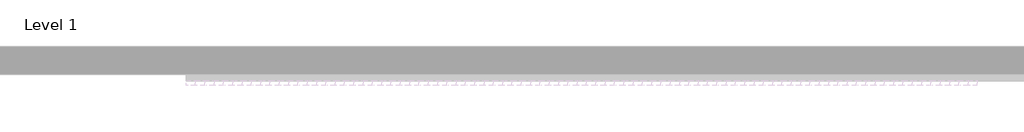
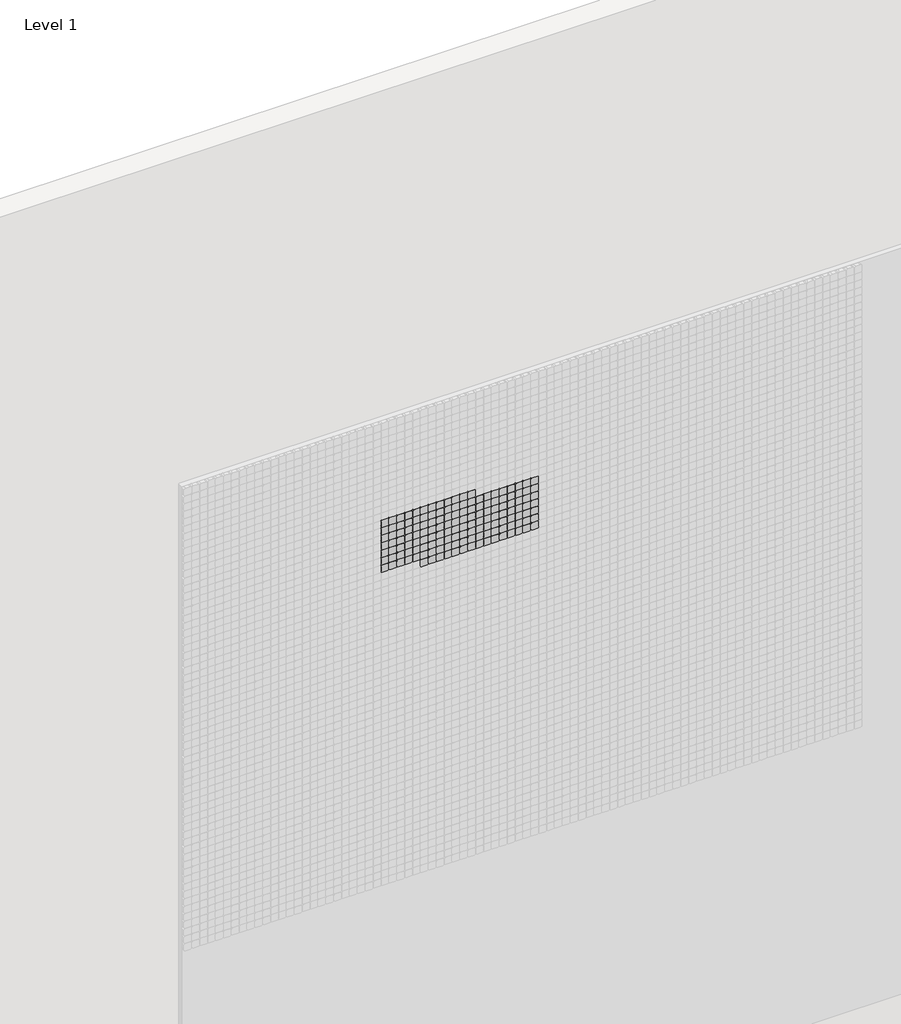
# One storey, part 23 of 71: 147 proxies.
"""IFC4 building model written with IfcOpenShell, lengths in millimetres."""

from ifc_helpers import new_model, si_unit, origin, place, context, project, spatial, transform, mapped, element, save
from components import generic_models_afde289c

model = new_model("IFC4")

# Units and contexts
model_context = context("Model", 3, world=origin())
ifc_project = project(units=[si_unit("LENGTHUNIT", "METRE", prefix="MILLI")], contexts=[model_context])

# Site, building, storey
site = spatial("IfcSite", under=ifc_project)
building = spatial("IfcBuilding", under=site)
storey = spatial("IfcBuildingStorey", under=building, Name="Level 1", Elevation=0.0)

# Proxies
placement = place(None, origin())
generic_models_shape = generic_models_afde289c(model_context)
element("IfcBuildingElementProxy", 1, Name="Pixel_M : Pixel_M", ObjectType="Pixel_M : Pixel_M", at=placement, inside=storey, context=model_context, shape_type="MappedRepresentation", body=[
    mapped(generic_models_shape, transform((6562.4280941, -75.0, 5316.3566215), x_axis=(1.0, 0.0, 0.0), y_axis=(0.0, 0.0, 1.0), z_axis=(0.0, -1.0, 0.0))),
])
element("IfcBuildingElementProxy", 2, Name="Pixel_M : Pixel_M", ObjectType="Pixel_M : Pixel_M", at=placement, inside=storey, context=model_context, shape_type="MappedRepresentation", body=[
    mapped(generic_models_shape, transform((6512.4280941, -75.0, 5316.3566215), x_axis=(1.0, 0.0, 0.0), y_axis=(0.0, 0.0, 1.0), z_axis=(0.0, -1.0, 0.0))),
])
element("IfcBuildingElementProxy", 3, Name="Pixel_M : Pixel_M", ObjectType="Pixel_M : Pixel_M", at=placement, inside=storey, context=model_context, shape_type="MappedRepresentation", body=[
    mapped(generic_models_shape, transform((6462.4280941, -75.0, 5316.3566215), x_axis=(1.0, 0.0, 0.0), y_axis=(0.0, 0.0, 1.0), z_axis=(0.0, -1.0, 0.0))),
])
element("IfcBuildingElementProxy", 4, Name="Pixel_M : Pixel_M", ObjectType="Pixel_M : Pixel_M", at=placement, inside=storey, context=model_context, shape_type="MappedRepresentation", body=[
    mapped(generic_models_shape, transform((6412.4280941, -75.0, 5316.3566215), x_axis=(1.0, 0.0, 0.0), y_axis=(0.0, 0.0, 1.0), z_axis=(0.0, -1.0, 0.0))),
])
element("IfcBuildingElementProxy", 5, Name="Pixel_M : Pixel_M", ObjectType="Pixel_M : Pixel_M", at=placement, inside=storey, context=model_context, shape_type="MappedRepresentation", body=[
    mapped(generic_models_shape, transform((6362.4280941, -75.0, 5316.3566215), x_axis=(1.0, 0.0, 0.0), y_axis=(0.0, 0.0, 1.0), z_axis=(0.0, -1.0, 0.0))),
])
element("IfcBuildingElementProxy", 6, Name="Pixel_M : Pixel_M", ObjectType="Pixel_M : Pixel_M", at=placement, inside=storey, context=model_context, shape_type="MappedRepresentation", body=[
    mapped(generic_models_shape, transform((6312.4280941, -75.0, 5316.3566215), x_axis=(1.0, 0.0, 0.0), y_axis=(0.0, 0.0, 1.0), z_axis=(0.0, -1.0, 0.0))),
])
element("IfcBuildingElementProxy", 7, Name="Pixel_M : Pixel_M", ObjectType="Pixel_M : Pixel_M", at=placement, inside=storey, context=model_context, shape_type="MappedRepresentation", body=[
    mapped(generic_models_shape, transform((6262.4280941, -75.0, 5316.3566215), x_axis=(1.0, 0.0, 0.0), y_axis=(0.0, 0.0, 1.0), z_axis=(0.0, -1.0, 0.0))),
])
element("IfcBuildingElementProxy", 8, Name="Pixel_M : Pixel_M", ObjectType="Pixel_M : Pixel_M", at=placement, inside=storey, context=model_context, shape_type="MappedRepresentation", body=[
    mapped(generic_models_shape, transform((6212.4280941, -75.0, 5316.3566215), x_axis=(1.0, 0.0, 0.0), y_axis=(0.0, 0.0, 1.0), z_axis=(0.0, -1.0, 0.0))),
])
element("IfcBuildingElementProxy", 9, Name="Pixel_M : Pixel_M", ObjectType="Pixel_M : Pixel_M", at=placement, inside=storey, context=model_context, shape_type="MappedRepresentation", body=[
    mapped(generic_models_shape, transform((6162.4280941, -75.0, 5316.3566215), x_axis=(1.0, 0.0, 0.0), y_axis=(0.0, 0.0, 1.0), z_axis=(0.0, -1.0, 0.0))),
])
element("IfcBuildingElementProxy", 10, Name="Pixel_M : Pixel_M", ObjectType="Pixel_M : Pixel_M", at=placement, inside=storey, context=model_context, shape_type="MappedRepresentation", body=[
    mapped(generic_models_shape, transform((6112.4280941, -75.0, 5316.3566215), x_axis=(1.0, 0.0, 0.0), y_axis=(0.0, 0.0, 1.0), z_axis=(0.0, -1.0, 0.0))),
])
element("IfcBuildingElementProxy", 11, Name="Pixel_M : Pixel_M", ObjectType="Pixel_M : Pixel_M", at=placement, inside=storey, context=model_context, shape_type="MappedRepresentation", body=[
    mapped(generic_models_shape, transform((6062.4280941, -75.0, 5316.3566215), x_axis=(1.0, 0.0, 0.0), y_axis=(0.0, 0.0, 1.0), z_axis=(0.0, -1.0, 0.0))),
])
element("IfcBuildingElementProxy", 12, Name="Pixel_M : Pixel_M", ObjectType="Pixel_M : Pixel_M", at=placement, inside=storey, context=model_context, shape_type="MappedRepresentation", body=[
    mapped(generic_models_shape, transform((6012.4280941, -75.0, 5316.3566215), x_axis=(1.0, 0.0, 0.0), y_axis=(0.0, 0.0, 1.0), z_axis=(0.0, -1.0, 0.0))),
])
element("IfcBuildingElementProxy", 13, Name="Pixel_M : Pixel_M", ObjectType="Pixel_M : Pixel_M", at=placement, inside=storey, context=model_context, shape_type="MappedRepresentation", body=[
    mapped(generic_models_shape, transform((6962.4280941, -75.0, 5266.3566215), x_axis=(1.0, 0.0, 0.0), y_axis=(0.0, 0.0, 1.0), z_axis=(0.0, -1.0, 0.0))),
])
element("IfcBuildingElementProxy", 14, Name="Pixel_M : Pixel_M", ObjectType="Pixel_M : Pixel_M", at=placement, inside=storey, context=model_context, shape_type="MappedRepresentation", body=[
    mapped(generic_models_shape, transform((6912.4280941, -75.0, 5266.3566215), x_axis=(1.0, 0.0, 0.0), y_axis=(0.0, 0.0, 1.0), z_axis=(0.0, -1.0, 0.0))),
])
element("IfcBuildingElementProxy", 15, Name="Pixel_M : Pixel_M", ObjectType="Pixel_M : Pixel_M", at=placement, inside=storey, context=model_context, shape_type="MappedRepresentation", body=[
    mapped(generic_models_shape, transform((6862.4280941, -75.0, 5266.3566215), x_axis=(1.0, 0.0, 0.0), y_axis=(0.0, 0.0, 1.0), z_axis=(0.0, -1.0, 0.0))),
])
element("IfcBuildingElementProxy", 16, Name="Pixel_M : Pixel_M", ObjectType="Pixel_M : Pixel_M", at=placement, inside=storey, context=model_context, shape_type="MappedRepresentation", body=[
    mapped(generic_models_shape, transform((6812.4280941, -75.0, 5266.3566215), x_axis=(1.0, 0.0, 0.0), y_axis=(0.0, 0.0, 1.0), z_axis=(0.0, -1.0, 0.0))),
])
element("IfcBuildingElementProxy", 17, Name="Pixel_M : Pixel_M", ObjectType="Pixel_M : Pixel_M", at=placement, inside=storey, context=model_context, shape_type="MappedRepresentation", body=[
    mapped(generic_models_shape, transform((6762.4280941, -75.0, 5266.3566215), x_axis=(1.0, 0.0, 0.0), y_axis=(0.0, 0.0, 1.0), z_axis=(0.0, -1.0, 0.0))),
])
element("IfcBuildingElementProxy", 18, Name="Pixel_M : Pixel_M", ObjectType="Pixel_M : Pixel_M", at=placement, inside=storey, context=model_context, shape_type="MappedRepresentation", body=[
    mapped(generic_models_shape, transform((6712.4280941, -75.0, 5266.3566215), x_axis=(1.0, 0.0, 0.0), y_axis=(0.0, 0.0, 1.0), z_axis=(0.0, -1.0, 0.0))),
])
element("IfcBuildingElementProxy", 19, Name="Pixel_M : Pixel_M", ObjectType="Pixel_M : Pixel_M", at=placement, inside=storey, context=model_context, shape_type="MappedRepresentation", body=[
    mapped(generic_models_shape, transform((6662.4280941, -75.0, 5266.3566215), x_axis=(1.0, 0.0, 0.0), y_axis=(0.0, 0.0, 1.0), z_axis=(0.0, -1.0, 0.0))),
])
element("IfcBuildingElementProxy", 20, Name="Pixel_M : Pixel_M", ObjectType="Pixel_M : Pixel_M", at=placement, inside=storey, context=model_context, shape_type="MappedRepresentation", body=[
    mapped(generic_models_shape, transform((6612.4280941, -75.0, 5266.3566215), x_axis=(1.0, 0.0, 0.0), y_axis=(0.0, 0.0, 1.0), z_axis=(0.0, -1.0, 0.0))),
])
element("IfcBuildingElementProxy", 21, Name="Pixel_M : Pixel_M", ObjectType="Pixel_M : Pixel_M", at=placement, inside=storey, context=model_context, shape_type="MappedRepresentation", body=[
    mapped(generic_models_shape, transform((6562.4280941, -75.0, 5266.3566215), x_axis=(1.0, 0.0, 0.0), y_axis=(0.0, 0.0, 1.0), z_axis=(0.0, -1.0, 0.0))),
])
element("IfcBuildingElementProxy", 22, Name="Pixel_M : Pixel_M", ObjectType="Pixel_M : Pixel_M", at=placement, inside=storey, context=model_context, shape_type="MappedRepresentation", body=[
    mapped(generic_models_shape, transform((6512.4280941, -75.0, 5266.3566215), x_axis=(1.0, 0.0, 0.0), y_axis=(0.0, 0.0, 1.0), z_axis=(0.0, -1.0, 0.0))),
])
element("IfcBuildingElementProxy", 23, Name="Pixel_M : Pixel_M", ObjectType="Pixel_M : Pixel_M", at=placement, inside=storey, context=model_context, shape_type="MappedRepresentation", body=[
    mapped(generic_models_shape, transform((6462.4280941, -75.0, 5266.3566215), x_axis=(1.0, 0.0, 0.0), y_axis=(0.0, 0.0, 1.0), z_axis=(0.0, -1.0, 0.0))),
])
element("IfcBuildingElementProxy", 24, Name="Pixel_M : Pixel_M", ObjectType="Pixel_M : Pixel_M", at=placement, inside=storey, context=model_context, shape_type="MappedRepresentation", body=[
    mapped(generic_models_shape, transform((6412.4280941, -75.0, 5266.3566215), x_axis=(1.0, 0.0, 0.0), y_axis=(0.0, 0.0, 1.0), z_axis=(0.0, -1.0, 0.0))),
])
element("IfcBuildingElementProxy", 25, Name="Pixel_M : Pixel_M", ObjectType="Pixel_M : Pixel_M", at=placement, inside=storey, context=model_context, shape_type="MappedRepresentation", body=[
    mapped(generic_models_shape, transform((6362.4280941, -75.0, 5266.3566215), x_axis=(1.0, 0.0, 0.0), y_axis=(0.0, 0.0, 1.0), z_axis=(0.0, -1.0, 0.0))),
])
element("IfcBuildingElementProxy", 26, Name="Pixel_M : Pixel_M", ObjectType="Pixel_M : Pixel_M", at=placement, inside=storey, context=model_context, shape_type="MappedRepresentation", body=[
    mapped(generic_models_shape, transform((6312.4280941, -75.0, 5266.3566215), x_axis=(1.0, 0.0, 0.0), y_axis=(0.0, 0.0, 1.0), z_axis=(0.0, -1.0, 0.0))),
])
element("IfcBuildingElementProxy", 27, Name="Pixel_M : Pixel_M", ObjectType="Pixel_M : Pixel_M", at=placement, inside=storey, context=model_context, shape_type="MappedRepresentation", body=[
    mapped(generic_models_shape, transform((6262.4280941, -75.0, 5266.3566215), x_axis=(1.0, 0.0, 0.0), y_axis=(0.0, 0.0, 1.0), z_axis=(0.0, -1.0, 0.0))),
])
element("IfcBuildingElementProxy", 28, Name="Pixel_M : Pixel_M", ObjectType="Pixel_M : Pixel_M", at=placement, inside=storey, context=model_context, shape_type="MappedRepresentation", body=[
    mapped(generic_models_shape, transform((6212.4280941, -75.0, 5266.3566215), x_axis=(1.0, 0.0, 0.0), y_axis=(0.0, 0.0, 1.0), z_axis=(0.0, -1.0, 0.0))),
])
element("IfcBuildingElementProxy", 29, Name="Pixel_M : Pixel_M", ObjectType="Pixel_M : Pixel_M", at=placement, inside=storey, context=model_context, shape_type="MappedRepresentation", body=[
    mapped(generic_models_shape, transform((6162.4280941, -75.0, 5266.3566215), x_axis=(1.0, 0.0, 0.0), y_axis=(0.0, 0.0, 1.0), z_axis=(0.0, -1.0, 0.0))),
])
element("IfcBuildingElementProxy", 30, Name="Pixel_M : Pixel_M", ObjectType="Pixel_M : Pixel_M", at=placement, inside=storey, context=model_context, shape_type="MappedRepresentation", body=[
    mapped(generic_models_shape, transform((6112.4280941, -75.0, 5266.3566215), x_axis=(1.0, 0.0, 0.0), y_axis=(0.0, 0.0, 1.0), z_axis=(0.0, -1.0, 0.0))),
])
element("IfcBuildingElementProxy", 31, Name="Pixel_M : Pixel_M", ObjectType="Pixel_M : Pixel_M", at=placement, inside=storey, context=model_context, shape_type="MappedRepresentation", body=[
    mapped(generic_models_shape, transform((6062.4280941, -75.0, 5266.3566215), x_axis=(1.0, 0.0, 0.0), y_axis=(0.0, 0.0, 1.0), z_axis=(0.0, -1.0, 0.0))),
])
element("IfcBuildingElementProxy", 32, Name="Pixel_M : Pixel_M", ObjectType="Pixel_M : Pixel_M", at=placement, inside=storey, context=model_context, shape_type="MappedRepresentation", body=[
    mapped(generic_models_shape, transform((6012.4280941, -75.0, 5266.3566215), x_axis=(1.0, 0.0, 0.0), y_axis=(0.0, 0.0, 1.0), z_axis=(0.0, -1.0, 0.0))),
])
element("IfcBuildingElementProxy", 33, Name="Pixel_M : Pixel_M", ObjectType="Pixel_M : Pixel_M", at=placement, inside=storey, context=model_context, shape_type="MappedRepresentation", body=[
    mapped(generic_models_shape, transform((6962.4280941, -75.0, 5216.3566215), x_axis=(1.0, 0.0, 0.0), y_axis=(0.0, 0.0, 1.0), z_axis=(0.0, -1.0, 0.0))),
])
element("IfcBuildingElementProxy", 34, Name="Pixel_M : Pixel_M", ObjectType="Pixel_M : Pixel_M", at=placement, inside=storey, context=model_context, shape_type="MappedRepresentation", body=[
    mapped(generic_models_shape, transform((6912.4280941, -75.0, 5216.3566215), x_axis=(1.0, 0.0, 0.0), y_axis=(0.0, 0.0, 1.0), z_axis=(0.0, -1.0, 0.0))),
])
element("IfcBuildingElementProxy", 35, Name="Pixel_M : Pixel_M", ObjectType="Pixel_M : Pixel_M", at=placement, inside=storey, context=model_context, shape_type="MappedRepresentation", body=[
    mapped(generic_models_shape, transform((6862.4280941, -75.0, 5216.3566215), x_axis=(1.0, 0.0, 0.0), y_axis=(0.0, 0.0, 1.0), z_axis=(0.0, -1.0, 0.0))),
])
element("IfcBuildingElementProxy", 36, Name="Pixel_M : Pixel_M", ObjectType="Pixel_M : Pixel_M", at=placement, inside=storey, context=model_context, shape_type="MappedRepresentation", body=[
    mapped(generic_models_shape, transform((6812.4280941, -75.0, 5216.3566215), x_axis=(1.0, 0.0, 0.0), y_axis=(0.0, 0.0, 1.0), z_axis=(0.0, -1.0, 0.0))),
])
element("IfcBuildingElementProxy", 37, Name="Pixel_M : Pixel_M", ObjectType="Pixel_M : Pixel_M", at=placement, inside=storey, context=model_context, shape_type="MappedRepresentation", body=[
    mapped(generic_models_shape, transform((6762.4280941, -75.0, 5216.3566215), x_axis=(1.0, 0.0, 0.0), y_axis=(0.0, 0.0, 1.0), z_axis=(0.0, -1.0, 0.0))),
])
element("IfcBuildingElementProxy", 38, Name="Pixel_M : Pixel_M", ObjectType="Pixel_M : Pixel_M", at=placement, inside=storey, context=model_context, shape_type="MappedRepresentation", body=[
    mapped(generic_models_shape, transform((6712.4280941, -75.0, 5216.3566215), x_axis=(1.0, 0.0, 0.0), y_axis=(0.0, 0.0, 1.0), z_axis=(0.0, -1.0, 0.0))),
])
element("IfcBuildingElementProxy", 39, Name="Pixel_M : Pixel_M", ObjectType="Pixel_M : Pixel_M", at=placement, inside=storey, context=model_context, shape_type="MappedRepresentation", body=[
    mapped(generic_models_shape, transform((6662.4280941, -75.0, 5216.3566215), x_axis=(1.0, 0.0, 0.0), y_axis=(0.0, 0.0, 1.0), z_axis=(0.0, -1.0, 0.0))),
])
element("IfcBuildingElementProxy", 40, Name="Pixel_M : Pixel_M", ObjectType="Pixel_M : Pixel_M", at=placement, inside=storey, context=model_context, shape_type="MappedRepresentation", body=[
    mapped(generic_models_shape, transform((6612.4280941, -75.0, 5216.3566215), x_axis=(1.0, 0.0, 0.0), y_axis=(0.0, 0.0, 1.0), z_axis=(0.0, -1.0, 0.0))),
])
element("IfcBuildingElementProxy", 41, Name="Pixel_M : Pixel_M", ObjectType="Pixel_M : Pixel_M", at=placement, inside=storey, context=model_context, shape_type="MappedRepresentation", body=[
    mapped(generic_models_shape, transform((6562.4280941, -75.0, 5216.3566215), x_axis=(1.0, 0.0, 0.0), y_axis=(0.0, 0.0, 1.0), z_axis=(0.0, -1.0, 0.0))),
])
element("IfcBuildingElementProxy", 42, Name="Pixel_M : Pixel_M", ObjectType="Pixel_M : Pixel_M", at=placement, inside=storey, context=model_context, shape_type="MappedRepresentation", body=[
    mapped(generic_models_shape, transform((6512.4280941, -75.0, 5216.3566215), x_axis=(1.0, 0.0, 0.0), y_axis=(0.0, 0.0, 1.0), z_axis=(0.0, -1.0, 0.0))),
])
element("IfcBuildingElementProxy", 43, Name="Pixel_M : Pixel_M", ObjectType="Pixel_M : Pixel_M", at=placement, inside=storey, context=model_context, shape_type="MappedRepresentation", body=[
    mapped(generic_models_shape, transform((6462.4280941, -75.0, 5216.3566215), x_axis=(1.0, 0.0, 0.0), y_axis=(0.0, 0.0, 1.0), z_axis=(0.0, -1.0, 0.0))),
])
element("IfcBuildingElementProxy", 44, Name="Pixel_M : Pixel_M", ObjectType="Pixel_M : Pixel_M", at=placement, inside=storey, context=model_context, shape_type="MappedRepresentation", body=[
    mapped(generic_models_shape, transform((6412.4280941, -75.0, 5216.3566215), x_axis=(1.0, 0.0, 0.0), y_axis=(0.0, 0.0, 1.0), z_axis=(0.0, -1.0, 0.0))),
])
element("IfcBuildingElementProxy", 45, Name="Pixel_M : Pixel_M", ObjectType="Pixel_M : Pixel_M", at=placement, inside=storey, context=model_context, shape_type="MappedRepresentation", body=[
    mapped(generic_models_shape, transform((6362.4280941, -75.0, 5216.3566215), x_axis=(1.0, 0.0, 0.0), y_axis=(0.0, 0.0, 1.0), z_axis=(0.0, -1.0, 0.0))),
])
element("IfcBuildingElementProxy", 46, Name="Pixel_M : Pixel_M", ObjectType="Pixel_M : Pixel_M", at=placement, inside=storey, context=model_context, shape_type="MappedRepresentation", body=[
    mapped(generic_models_shape, transform((6312.4280941, -75.0, 5216.3566215), x_axis=(1.0, 0.0, 0.0), y_axis=(0.0, 0.0, 1.0), z_axis=(0.0, -1.0, 0.0))),
])
element("IfcBuildingElementProxy", 47, Name="Pixel_M : Pixel_M", ObjectType="Pixel_M : Pixel_M", at=placement, inside=storey, context=model_context, shape_type="MappedRepresentation", body=[
    mapped(generic_models_shape, transform((6262.4280941, -75.0, 5216.3566215), x_axis=(1.0, 0.0, 0.0), y_axis=(0.0, 0.0, 1.0), z_axis=(0.0, -1.0, 0.0))),
])
element("IfcBuildingElementProxy", 48, Name="Pixel_M : Pixel_M", ObjectType="Pixel_M : Pixel_M", at=placement, inside=storey, context=model_context, shape_type="MappedRepresentation", body=[
    mapped(generic_models_shape, transform((6212.4280941, -75.0, 5216.3566215), x_axis=(1.0, 0.0, 0.0), y_axis=(0.0, 0.0, 1.0), z_axis=(0.0, -1.0, 0.0))),
])
element("IfcBuildingElementProxy", 49, Name="Pixel_M : Pixel_M", ObjectType="Pixel_M : Pixel_M", at=placement, inside=storey, context=model_context, shape_type="MappedRepresentation", body=[
    mapped(generic_models_shape, transform((6162.4280941, -75.0, 5216.3566215), x_axis=(1.0, 0.0, 0.0), y_axis=(0.0, 0.0, 1.0), z_axis=(0.0, -1.0, 0.0))),
])
element("IfcBuildingElementProxy", 50, Name="Pixel_M : Pixel_M", ObjectType="Pixel_M : Pixel_M", at=placement, inside=storey, context=model_context, shape_type="MappedRepresentation", body=[
    mapped(generic_models_shape, transform((6112.4280941, -75.0, 5216.3566215), x_axis=(1.0, 0.0, 0.0), y_axis=(0.0, 0.0, 1.0), z_axis=(0.0, -1.0, 0.0))),
])
element("IfcBuildingElementProxy", 51, Name="Pixel_M : Pixel_M", ObjectType="Pixel_M : Pixel_M", at=placement, inside=storey, context=model_context, shape_type="MappedRepresentation", body=[
    mapped(generic_models_shape, transform((6062.4280941, -75.0, 5216.3566215), x_axis=(1.0, 0.0, 0.0), y_axis=(0.0, 0.0, 1.0), z_axis=(0.0, -1.0, 0.0))),
])
element("IfcBuildingElementProxy", 52, Name="Pixel_M : Pixel_M", ObjectType="Pixel_M : Pixel_M", at=placement, inside=storey, context=model_context, shape_type="MappedRepresentation", body=[
    mapped(generic_models_shape, transform((6012.4280941, -75.0, 5216.3566215), x_axis=(1.0, 0.0, 0.0), y_axis=(0.0, 0.0, 1.0), z_axis=(0.0, -1.0, 0.0))),
])
element("IfcBuildingElementProxy", 53, Name="Pixel_M : Pixel_M", ObjectType="Pixel_M : Pixel_M", at=placement, inside=storey, context=model_context, shape_type="MappedRepresentation", body=[
    mapped(generic_models_shape, transform((6962.4280941, -75.0, 5166.3566215), x_axis=(1.0, 0.0, 0.0), y_axis=(0.0, 0.0, 1.0), z_axis=(0.0, -1.0, 0.0))),
])
element("IfcBuildingElementProxy", 54, Name="Pixel_M : Pixel_M", ObjectType="Pixel_M : Pixel_M", at=placement, inside=storey, context=model_context, shape_type="MappedRepresentation", body=[
    mapped(generic_models_shape, transform((6912.4280941, -75.0, 5166.3566215), x_axis=(1.0, 0.0, 0.0), y_axis=(0.0, 0.0, 1.0), z_axis=(0.0, -1.0, 0.0))),
])
element("IfcBuildingElementProxy", 55, Name="Pixel_M : Pixel_M", ObjectType="Pixel_M : Pixel_M", at=placement, inside=storey, context=model_context, shape_type="MappedRepresentation", body=[
    mapped(generic_models_shape, transform((6862.4280941, -75.0, 5166.3566215), x_axis=(1.0, 0.0, 0.0), y_axis=(0.0, 0.0, 1.0), z_axis=(0.0, -1.0, 0.0))),
])
element("IfcBuildingElementProxy", 56, Name="Pixel_M : Pixel_M", ObjectType="Pixel_M : Pixel_M", at=placement, inside=storey, context=model_context, shape_type="MappedRepresentation", body=[
    mapped(generic_models_shape, transform((6812.4280941, -75.0, 5166.3566215), x_axis=(1.0, 0.0, 0.0), y_axis=(0.0, 0.0, 1.0), z_axis=(0.0, -1.0, 0.0))),
])
element("IfcBuildingElementProxy", 57, Name="Pixel_M : Pixel_M", ObjectType="Pixel_M : Pixel_M", at=placement, inside=storey, context=model_context, shape_type="MappedRepresentation", body=[
    mapped(generic_models_shape, transform((6762.4280941, -75.0, 5166.3566215), x_axis=(1.0, 0.0, 0.0), y_axis=(0.0, 0.0, 1.0), z_axis=(0.0, -1.0, 0.0))),
])
element("IfcBuildingElementProxy", 58, Name="Pixel_M : Pixel_M", ObjectType="Pixel_M : Pixel_M", at=placement, inside=storey, context=model_context, shape_type="MappedRepresentation", body=[
    mapped(generic_models_shape, transform((6712.4280941, -75.0, 5166.3566215), x_axis=(1.0, 0.0, 0.0), y_axis=(0.0, 0.0, 1.0), z_axis=(0.0, -1.0, 0.0))),
])
element("IfcBuildingElementProxy", 59, Name="Pixel_M : Pixel_M", ObjectType="Pixel_M : Pixel_M", at=placement, inside=storey, context=model_context, shape_type="MappedRepresentation", body=[
    mapped(generic_models_shape, transform((6662.4280941, -75.0, 5166.3566215), x_axis=(1.0, 0.0, 0.0), y_axis=(0.0, 0.0, 1.0), z_axis=(0.0, -1.0, 0.0))),
])
element("IfcBuildingElementProxy", 60, Name="Pixel_M : Pixel_M", ObjectType="Pixel_M : Pixel_M", at=placement, inside=storey, context=model_context, shape_type="MappedRepresentation", body=[
    mapped(generic_models_shape, transform((6612.4280941, -75.0, 5166.3566215), x_axis=(1.0, 0.0, 0.0), y_axis=(0.0, 0.0, 1.0), z_axis=(0.0, -1.0, 0.0))),
])
element("IfcBuildingElementProxy", 61, Name="Pixel_M : Pixel_M", ObjectType="Pixel_M : Pixel_M", at=placement, inside=storey, context=model_context, shape_type="MappedRepresentation", body=[
    mapped(generic_models_shape, transform((6562.4280941, -75.0, 5166.3566215), x_axis=(1.0, 0.0, 0.0), y_axis=(0.0, 0.0, 1.0), z_axis=(0.0, -1.0, 0.0))),
])
element("IfcBuildingElementProxy", 62, Name="Pixel_M : Pixel_M", ObjectType="Pixel_M : Pixel_M", at=placement, inside=storey, context=model_context, shape_type="MappedRepresentation", body=[
    mapped(generic_models_shape, transform((6512.4280941, -75.0, 5166.3566215), x_axis=(1.0, 0.0, 0.0), y_axis=(0.0, 0.0, 1.0), z_axis=(0.0, -1.0, 0.0))),
])
element("IfcBuildingElementProxy", 63, Name="Pixel_M : Pixel_M", ObjectType="Pixel_M : Pixel_M", at=placement, inside=storey, context=model_context, shape_type="MappedRepresentation", body=[
    mapped(generic_models_shape, transform((6462.4280941, -75.0, 5166.3566215), x_axis=(1.0, 0.0, 0.0), y_axis=(0.0, 0.0, 1.0), z_axis=(0.0, -1.0, 0.0))),
])
element("IfcBuildingElementProxy", 64, Name="Pixel_M : Pixel_M", ObjectType="Pixel_M : Pixel_M", at=placement, inside=storey, context=model_context, shape_type="MappedRepresentation", body=[
    mapped(generic_models_shape, transform((6412.4280941, -75.0, 5166.3566215), x_axis=(1.0, 0.0, 0.0), y_axis=(0.0, 0.0, 1.0), z_axis=(0.0, -1.0, 0.0))),
])
element("IfcBuildingElementProxy", 65, Name="Pixel_M : Pixel_M", ObjectType="Pixel_M : Pixel_M", at=placement, inside=storey, context=model_context, shape_type="MappedRepresentation", body=[
    mapped(generic_models_shape, transform((6362.4280941, -75.0, 5166.3566215), x_axis=(1.0, 0.0, 0.0), y_axis=(0.0, 0.0, 1.0), z_axis=(0.0, -1.0, 0.0))),
])
element("IfcBuildingElementProxy", 66, Name="Pixel_M : Pixel_M", ObjectType="Pixel_M : Pixel_M", at=placement, inside=storey, context=model_context, shape_type="MappedRepresentation", body=[
    mapped(generic_models_shape, transform((6312.4280941, -75.0, 5166.3566215), x_axis=(1.0, 0.0, 0.0), y_axis=(0.0, 0.0, 1.0), z_axis=(0.0, -1.0, 0.0))),
])
element("IfcBuildingElementProxy", 67, Name="Pixel_M : Pixel_M", ObjectType="Pixel_M : Pixel_M", at=placement, inside=storey, context=model_context, shape_type="MappedRepresentation", body=[
    mapped(generic_models_shape, transform((6262.4280941, -75.0, 5166.3566215), x_axis=(1.0, 0.0, 0.0), y_axis=(0.0, 0.0, 1.0), z_axis=(0.0, -1.0, 0.0))),
])
element("IfcBuildingElementProxy", 68, Name="Pixel_M : Pixel_M", ObjectType="Pixel_M : Pixel_M", at=placement, inside=storey, context=model_context, shape_type="MappedRepresentation", body=[
    mapped(generic_models_shape, transform((6212.4280941, -75.0, 5166.3566215), x_axis=(1.0, 0.0, 0.0), y_axis=(0.0, 0.0, 1.0), z_axis=(0.0, -1.0, 0.0))),
])
element("IfcBuildingElementProxy", 69, Name="Pixel_M : Pixel_M", ObjectType="Pixel_M : Pixel_M", at=placement, inside=storey, context=model_context, shape_type="MappedRepresentation", body=[
    mapped(generic_models_shape, transform((6162.4280941, -75.0, 5166.3566215), x_axis=(1.0, 0.0, 0.0), y_axis=(0.0, 0.0, 1.0), z_axis=(0.0, -1.0, 0.0))),
])
element("IfcBuildingElementProxy", 70, Name="Pixel_M : Pixel_M", ObjectType="Pixel_M : Pixel_M", at=placement, inside=storey, context=model_context, shape_type="MappedRepresentation", body=[
    mapped(generic_models_shape, transform((6112.4280941, -75.0, 5166.3566215), x_axis=(1.0, 0.0, 0.0), y_axis=(0.0, 0.0, 1.0), z_axis=(0.0, -1.0, 0.0))),
])
element("IfcBuildingElementProxy", 71, Name="Pixel_M : Pixel_M", ObjectType="Pixel_M : Pixel_M", at=placement, inside=storey, context=model_context, shape_type="MappedRepresentation", body=[
    mapped(generic_models_shape, transform((6062.4280941, -75.0, 5166.3566215), x_axis=(1.0, 0.0, 0.0), y_axis=(0.0, 0.0, 1.0), z_axis=(0.0, -1.0, 0.0))),
])
element("IfcBuildingElementProxy", 72, Name="Pixel_M : Pixel_M", ObjectType="Pixel_M : Pixel_M", at=placement, inside=storey, context=model_context, shape_type="MappedRepresentation", body=[
    mapped(generic_models_shape, transform((6012.4280941, -75.0, 5166.3566215), x_axis=(1.0, 0.0, 0.0), y_axis=(0.0, 0.0, 1.0), z_axis=(0.0, -1.0, 0.0))),
])
element("IfcBuildingElementProxy", 73, Name="Pixel_M : Pixel_M", ObjectType="Pixel_M : Pixel_M", at=placement, inside=storey, context=model_context, shape_type="MappedRepresentation", body=[
    mapped(generic_models_shape, transform((6962.4280941, -75.0, 5116.3566215), x_axis=(1.0, 0.0, 0.0), y_axis=(0.0, 0.0, 1.0), z_axis=(0.0, -1.0, 0.0))),
])
element("IfcBuildingElementProxy", 74, Name="Pixel_M : Pixel_M", ObjectType="Pixel_M : Pixel_M", at=placement, inside=storey, context=model_context, shape_type="MappedRepresentation", body=[
    mapped(generic_models_shape, transform((6912.4280941, -75.0, 5116.3566215), x_axis=(1.0, 0.0, 0.0), y_axis=(0.0, 0.0, 1.0), z_axis=(0.0, -1.0, 0.0))),
])
element("IfcBuildingElementProxy", 75, Name="Pixel_M : Pixel_M", ObjectType="Pixel_M : Pixel_M", at=placement, inside=storey, context=model_context, shape_type="MappedRepresentation", body=[
    mapped(generic_models_shape, transform((6862.4280941, -75.0, 5116.3566215), x_axis=(1.0, 0.0, 0.0), y_axis=(0.0, 0.0, 1.0), z_axis=(0.0, -1.0, 0.0))),
])
element("IfcBuildingElementProxy", 76, Name="Pixel_M : Pixel_M", ObjectType="Pixel_M : Pixel_M", at=placement, inside=storey, context=model_context, shape_type="MappedRepresentation", body=[
    mapped(generic_models_shape, transform((6812.4280941, -75.0, 5116.3566215), x_axis=(1.0, 0.0, 0.0), y_axis=(0.0, 0.0, 1.0), z_axis=(0.0, -1.0, 0.0))),
])
element("IfcBuildingElementProxy", 77, Name="Pixel_M : Pixel_M", ObjectType="Pixel_M : Pixel_M", at=placement, inside=storey, context=model_context, shape_type="MappedRepresentation", body=[
    mapped(generic_models_shape, transform((6762.4280941, -75.0, 5116.3566215), x_axis=(1.0, 0.0, 0.0), y_axis=(0.0, 0.0, 1.0), z_axis=(0.0, -1.0, 0.0))),
])
element("IfcBuildingElementProxy", 78, Name="Pixel_M : Pixel_M", ObjectType="Pixel_M : Pixel_M", at=placement, inside=storey, context=model_context, shape_type="MappedRepresentation", body=[
    mapped(generic_models_shape, transform((6712.4280941, -75.0, 5116.3566215), x_axis=(1.0, 0.0, 0.0), y_axis=(0.0, 0.0, 1.0), z_axis=(0.0, -1.0, 0.0))),
])
element("IfcBuildingElementProxy", 79, Name="Pixel_M : Pixel_M", ObjectType="Pixel_M : Pixel_M", at=placement, inside=storey, context=model_context, shape_type="MappedRepresentation", body=[
    mapped(generic_models_shape, transform((6662.4280941, -75.0, 5116.3566215), x_axis=(1.0, 0.0, 0.0), y_axis=(0.0, 0.0, 1.0), z_axis=(0.0, -1.0, 0.0))),
])
element("IfcBuildingElementProxy", 80, Name="Pixel_M : Pixel_M", ObjectType="Pixel_M : Pixel_M", at=placement, inside=storey, context=model_context, shape_type="MappedRepresentation", body=[
    mapped(generic_models_shape, transform((6612.4280941, -75.0, 5116.3566215), x_axis=(1.0, 0.0, 0.0), y_axis=(0.0, 0.0, 1.0), z_axis=(0.0, -1.0, 0.0))),
])
element("IfcBuildingElementProxy", 81, Name="Pixel_M : Pixel_M", ObjectType="Pixel_M : Pixel_M", at=placement, inside=storey, context=model_context, shape_type="MappedRepresentation", body=[
    mapped(generic_models_shape, transform((6562.4280941, -75.0, 5116.3566215), x_axis=(1.0, 0.0, 0.0), y_axis=(0.0, 0.0, 1.0), z_axis=(0.0, -1.0, 0.0))),
])
element("IfcBuildingElementProxy", 82, Name="Pixel_M : Pixel_M", ObjectType="Pixel_M : Pixel_M", at=placement, inside=storey, context=model_context, shape_type="MappedRepresentation", body=[
    mapped(generic_models_shape, transform((6512.4280941, -75.0, 5116.3566215), x_axis=(1.0, 0.0, 0.0), y_axis=(0.0, 0.0, 1.0), z_axis=(0.0, -1.0, 0.0))),
])
element("IfcBuildingElementProxy", 83, Name="Pixel_M : Pixel_M", ObjectType="Pixel_M : Pixel_M", at=placement, inside=storey, context=model_context, shape_type="MappedRepresentation", body=[
    mapped(generic_models_shape, transform((6462.4280941, -75.0, 5116.3566215), x_axis=(1.0, 0.0, 0.0), y_axis=(0.0, 0.0, 1.0), z_axis=(0.0, -1.0, 0.0))),
])
element("IfcBuildingElementProxy", 84, Name="Pixel_M : Pixel_M", ObjectType="Pixel_M : Pixel_M", at=placement, inside=storey, context=model_context, shape_type="MappedRepresentation", body=[
    mapped(generic_models_shape, transform((6412.4280941, -75.0, 5116.3566215), x_axis=(1.0, 0.0, 0.0), y_axis=(0.0, 0.0, 1.0), z_axis=(0.0, -1.0, 0.0))),
])
element("IfcBuildingElementProxy", 85, Name="Pixel_M : Pixel_M", ObjectType="Pixel_M : Pixel_M", at=placement, inside=storey, context=model_context, shape_type="MappedRepresentation", body=[
    mapped(generic_models_shape, transform((6362.4280941, -75.0, 5116.3566215), x_axis=(1.0, 0.0, 0.0), y_axis=(0.0, 0.0, 1.0), z_axis=(0.0, -1.0, 0.0))),
])
element("IfcBuildingElementProxy", 86, Name="Pixel_M : Pixel_M", ObjectType="Pixel_M : Pixel_M", at=placement, inside=storey, context=model_context, shape_type="MappedRepresentation", body=[
    mapped(generic_models_shape, transform((6312.4280941, -75.0, 5116.3566215), x_axis=(1.0, 0.0, 0.0), y_axis=(0.0, 0.0, 1.0), z_axis=(0.0, -1.0, 0.0))),
])
element("IfcBuildingElementProxy", 87, Name="Pixel_M : Pixel_M", ObjectType="Pixel_M : Pixel_M", at=placement, inside=storey, context=model_context, shape_type="MappedRepresentation", body=[
    mapped(generic_models_shape, transform((6262.4280941, -75.0, 5116.3566215), x_axis=(1.0, 0.0, 0.0), y_axis=(0.0, 0.0, 1.0), z_axis=(0.0, -1.0, 0.0))),
])
element("IfcBuildingElementProxy", 88, Name="Pixel_M : Pixel_M", ObjectType="Pixel_M : Pixel_M", at=placement, inside=storey, context=model_context, shape_type="MappedRepresentation", body=[
    mapped(generic_models_shape, transform((6212.4280941, -75.0, 5116.3566215), x_axis=(1.0, 0.0, 0.0), y_axis=(0.0, 0.0, 1.0), z_axis=(0.0, -1.0, 0.0))),
])
element("IfcBuildingElementProxy", 89, Name="Pixel_M : Pixel_M", ObjectType="Pixel_M : Pixel_M", at=placement, inside=storey, context=model_context, shape_type="MappedRepresentation", body=[
    mapped(generic_models_shape, transform((6162.4280941, -75.0, 5116.3566215), x_axis=(1.0, 0.0, 0.0), y_axis=(0.0, 0.0, 1.0), z_axis=(0.0, -1.0, 0.0))),
])
element("IfcBuildingElementProxy", 90, Name="Pixel_M : Pixel_M", ObjectType="Pixel_M : Pixel_M", at=placement, inside=storey, context=model_context, shape_type="MappedRepresentation", body=[
    mapped(generic_models_shape, transform((6112.4280941, -75.0, 5116.3566215), x_axis=(1.0, 0.0, 0.0), y_axis=(0.0, 0.0, 1.0), z_axis=(0.0, -1.0, 0.0))),
])
element("IfcBuildingElementProxy", 91, Name="Pixel_M : Pixel_M", ObjectType="Pixel_M : Pixel_M", at=placement, inside=storey, context=model_context, shape_type="MappedRepresentation", body=[
    mapped(generic_models_shape, transform((6062.4280941, -75.0, 5116.3566215), x_axis=(1.0, 0.0, 0.0), y_axis=(0.0, 0.0, 1.0), z_axis=(0.0, -1.0, 0.0))),
])
element("IfcBuildingElementProxy", 92, Name="Pixel_M : Pixel_M", ObjectType="Pixel_M : Pixel_M", at=placement, inside=storey, context=model_context, shape_type="MappedRepresentation", body=[
    mapped(generic_models_shape, transform((6012.4280941, -75.0, 5116.3566215), x_axis=(1.0, 0.0, 0.0), y_axis=(0.0, 0.0, 1.0), z_axis=(0.0, -1.0, 0.0))),
])
element("IfcBuildingElementProxy", 93, Name="Pixel_M : Pixel_M", ObjectType="Pixel_M : Pixel_M", at=placement, inside=storey, context=model_context, shape_type="MappedRepresentation", body=[
    mapped(generic_models_shape, transform((6962.4280941, -75.0, 5066.3566215), x_axis=(1.0, 0.0, 0.0), y_axis=(0.0, 0.0, 1.0), z_axis=(0.0, -1.0, 0.0))),
])
element("IfcBuildingElementProxy", 94, Name="Pixel_M : Pixel_M", ObjectType="Pixel_M : Pixel_M", at=placement, inside=storey, context=model_context, shape_type="MappedRepresentation", body=[
    mapped(generic_models_shape, transform((6912.4280941, -75.0, 5066.3566215), x_axis=(1.0, 0.0, 0.0), y_axis=(0.0, 0.0, 1.0), z_axis=(0.0, -1.0, 0.0))),
])
element("IfcBuildingElementProxy", 95, Name="Pixel_M : Pixel_M", ObjectType="Pixel_M : Pixel_M", at=placement, inside=storey, context=model_context, shape_type="MappedRepresentation", body=[
    mapped(generic_models_shape, transform((6862.4280941, -75.0, 5066.3566215), x_axis=(1.0, 0.0, 0.0), y_axis=(0.0, 0.0, 1.0), z_axis=(0.0, -1.0, 0.0))),
])
element("IfcBuildingElementProxy", 96, Name="Pixel_M : Pixel_M", ObjectType="Pixel_M : Pixel_M", at=placement, inside=storey, context=model_context, shape_type="MappedRepresentation", body=[
    mapped(generic_models_shape, transform((6812.4280941, -75.0, 5066.3566215), x_axis=(1.0, 0.0, 0.0), y_axis=(0.0, 0.0, 1.0), z_axis=(0.0, -1.0, 0.0))),
])
element("IfcBuildingElementProxy", 97, Name="Pixel_M : Pixel_M", ObjectType="Pixel_M : Pixel_M", at=placement, inside=storey, context=model_context, shape_type="MappedRepresentation", body=[
    mapped(generic_models_shape, transform((6762.4280941, -75.0, 5066.3566215), x_axis=(1.0, 0.0, 0.0), y_axis=(0.0, 0.0, 1.0), z_axis=(0.0, -1.0, 0.0))),
])
element("IfcBuildingElementProxy", 98, Name="Pixel_M : Pixel_M", ObjectType="Pixel_M : Pixel_M", at=placement, inside=storey, context=model_context, shape_type="MappedRepresentation", body=[
    mapped(generic_models_shape, transform((6712.4280941, -75.0, 5066.3566215), x_axis=(1.0, 0.0, 0.0), y_axis=(0.0, 0.0, 1.0), z_axis=(0.0, -1.0, 0.0))),
])
element("IfcBuildingElementProxy", 99, Name="Pixel_M : Pixel_M", ObjectType="Pixel_M : Pixel_M", at=placement, inside=storey, context=model_context, shape_type="MappedRepresentation", body=[
    mapped(generic_models_shape, transform((6662.4280941, -75.0, 5066.3566215), x_axis=(1.0, 0.0, 0.0), y_axis=(0.0, 0.0, 1.0), z_axis=(0.0, -1.0, 0.0))),
])
element("IfcBuildingElementProxy", 100, Name="Pixel_M : Pixel_M", ObjectType="Pixel_M : Pixel_M", at=placement, inside=storey, context=model_context, shape_type="MappedRepresentation", body=[
    mapped(generic_models_shape, transform((6612.4280941, -75.0, 5066.3566215), x_axis=(1.0, 0.0, 0.0), y_axis=(0.0, 0.0, 1.0), z_axis=(0.0, -1.0, 0.0))),
])
element("IfcBuildingElementProxy", 101, Name="Pixel_M : Pixel_M", ObjectType="Pixel_M : Pixel_M", at=placement, inside=storey, context=model_context, shape_type="MappedRepresentation", body=[
    mapped(generic_models_shape, transform((6562.4280941, -75.0, 5066.3566215), x_axis=(1.0, 0.0, 0.0), y_axis=(0.0, 0.0, 1.0), z_axis=(0.0, -1.0, 0.0))),
])
element("IfcBuildingElementProxy", 102, Name="Pixel_M : Pixel_M", ObjectType="Pixel_M : Pixel_M", at=placement, inside=storey, context=model_context, shape_type="MappedRepresentation", body=[
    mapped(generic_models_shape, transform((6512.4280941, -75.0, 5066.3566215), x_axis=(1.0, 0.0, 0.0), y_axis=(0.0, 0.0, 1.0), z_axis=(0.0, -1.0, 0.0))),
])
element("IfcBuildingElementProxy", 103, Name="Pixel_M : Pixel_M", ObjectType="Pixel_M : Pixel_M", at=placement, inside=storey, context=model_context, shape_type="MappedRepresentation", body=[
    mapped(generic_models_shape, transform((6462.4280941, -75.0, 5066.3566215), x_axis=(1.0, 0.0, 0.0), y_axis=(0.0, 0.0, 1.0), z_axis=(0.0, -1.0, 0.0))),
])
element("IfcBuildingElementProxy", 104, Name="Pixel_M : Pixel_M", ObjectType="Pixel_M : Pixel_M", at=placement, inside=storey, context=model_context, shape_type="MappedRepresentation", body=[
    mapped(generic_models_shape, transform((6412.4280941, -75.0, 5066.3566215), x_axis=(1.0, 0.0, 0.0), y_axis=(0.0, 0.0, 1.0), z_axis=(0.0, -1.0, 0.0))),
])
element("IfcBuildingElementProxy", 105, Name="Pixel_M : Pixel_M", ObjectType="Pixel_M : Pixel_M", at=placement, inside=storey, context=model_context, shape_type="MappedRepresentation", body=[
    mapped(generic_models_shape, transform((6362.4280941, -75.0, 5066.3566215), x_axis=(1.0, 0.0, 0.0), y_axis=(0.0, 0.0, 1.0), z_axis=(0.0, -1.0, 0.0))),
])
element("IfcBuildingElementProxy", 106, Name="Pixel_M : Pixel_M", ObjectType="Pixel_M : Pixel_M", at=placement, inside=storey, context=model_context, shape_type="MappedRepresentation", body=[
    mapped(generic_models_shape, transform((6312.4280941, -75.0, 5066.3566215), x_axis=(1.0, 0.0, 0.0), y_axis=(0.0, 0.0, 1.0), z_axis=(0.0, -1.0, 0.0))),
])
element("IfcBuildingElementProxy", 107, Name="Pixel_M : Pixel_M", ObjectType="Pixel_M : Pixel_M", at=placement, inside=storey, context=model_context, shape_type="MappedRepresentation", body=[
    mapped(generic_models_shape, transform((6262.4280941, -75.0, 5066.3566215), x_axis=(1.0, 0.0, 0.0), y_axis=(0.0, 0.0, 1.0), z_axis=(0.0, -1.0, 0.0))),
])
element("IfcBuildingElementProxy", 108, Name="Pixel_M : Pixel_M", ObjectType="Pixel_M : Pixel_M", at=placement, inside=storey, context=model_context, shape_type="MappedRepresentation", body=[
    mapped(generic_models_shape, transform((6212.4280941, -75.0, 5066.3566215), x_axis=(1.0, 0.0, 0.0), y_axis=(0.0, 0.0, 1.0), z_axis=(0.0, -1.0, 0.0))),
])
element("IfcBuildingElementProxy", 109, Name="Pixel_M : Pixel_M", ObjectType="Pixel_M : Pixel_M", at=placement, inside=storey, context=model_context, shape_type="MappedRepresentation", body=[
    mapped(generic_models_shape, transform((6162.4280941, -75.0, 5066.3566215), x_axis=(1.0, 0.0, 0.0), y_axis=(0.0, 0.0, 1.0), z_axis=(0.0, -1.0, 0.0))),
])
element("IfcBuildingElementProxy", 110, Name="Pixel_M : Pixel_M", ObjectType="Pixel_M : Pixel_M", at=placement, inside=storey, context=model_context, shape_type="MappedRepresentation", body=[
    mapped(generic_models_shape, transform((6112.4280941, -75.0, 5066.3566215), x_axis=(1.0, 0.0, 0.0), y_axis=(0.0, 0.0, 1.0), z_axis=(0.0, -1.0, 0.0))),
])
element("IfcBuildingElementProxy", 111, Name="Pixel_M : Pixel_M", ObjectType="Pixel_M : Pixel_M", at=placement, inside=storey, context=model_context, shape_type="MappedRepresentation", body=[
    mapped(generic_models_shape, transform((6062.4280941, -75.0, 5066.3566215), x_axis=(1.0, 0.0, 0.0), y_axis=(0.0, 0.0, 1.0), z_axis=(0.0, -1.0, 0.0))),
])
element("IfcBuildingElementProxy", 112, Name="Pixel_M : Pixel_M", ObjectType="Pixel_M : Pixel_M", at=placement, inside=storey, context=model_context, shape_type="MappedRepresentation", body=[
    mapped(generic_models_shape, transform((6012.4280941, -75.0, 5066.3566215), x_axis=(1.0, 0.0, 0.0), y_axis=(0.0, 0.0, 1.0), z_axis=(0.0, -1.0, 0.0))),
])
element("IfcBuildingElementProxy", 113, Name="Pixel_M : Pixel_M", ObjectType="Pixel_M : Pixel_M", at=placement, inside=storey, context=model_context, shape_type="MappedRepresentation", body=[
    mapped(generic_models_shape, transform((6962.4280941, -75.0, 5016.3566215), x_axis=(1.0, 0.0, 0.0), y_axis=(0.0, 0.0, 1.0), z_axis=(0.0, -1.0, 0.0))),
])
element("IfcBuildingElementProxy", 114, Name="Pixel_M : Pixel_M", ObjectType="Pixel_M : Pixel_M", at=placement, inside=storey, context=model_context, shape_type="MappedRepresentation", body=[
    mapped(generic_models_shape, transform((6912.4280941, -75.0, 5016.3566215), x_axis=(1.0, 0.0, 0.0), y_axis=(0.0, 0.0, 1.0), z_axis=(0.0, -1.0, 0.0))),
])
element("IfcBuildingElementProxy", 115, Name="Pixel_M : Pixel_M", ObjectType="Pixel_M : Pixel_M", at=placement, inside=storey, context=model_context, shape_type="MappedRepresentation", body=[
    mapped(generic_models_shape, transform((6862.4280941, -75.0, 5016.3566215), x_axis=(1.0, 0.0, 0.0), y_axis=(0.0, 0.0, 1.0), z_axis=(0.0, -1.0, 0.0))),
])
element("IfcBuildingElementProxy", 116, Name="Pixel_M : Pixel_M", ObjectType="Pixel_M : Pixel_M", at=placement, inside=storey, context=model_context, shape_type="MappedRepresentation", body=[
    mapped(generic_models_shape, transform((6812.4280941, -75.0, 5016.3566215), x_axis=(1.0, 0.0, 0.0), y_axis=(0.0, 0.0, 1.0), z_axis=(0.0, -1.0, 0.0))),
])
element("IfcBuildingElementProxy", 117, Name="Pixel_M : Pixel_M", ObjectType="Pixel_M : Pixel_M", at=placement, inside=storey, context=model_context, shape_type="MappedRepresentation", body=[
    mapped(generic_models_shape, transform((6762.4280941, -75.0, 5016.3566215), x_axis=(1.0, 0.0, 0.0), y_axis=(0.0, 0.0, 1.0), z_axis=(0.0, -1.0, 0.0))),
])
element("IfcBuildingElementProxy", 118, Name="Pixel_M : Pixel_M", ObjectType="Pixel_M : Pixel_M", at=placement, inside=storey, context=model_context, shape_type="MappedRepresentation", body=[
    mapped(generic_models_shape, transform((6712.4280941, -75.0, 5016.3566215), x_axis=(1.0, 0.0, 0.0), y_axis=(0.0, 0.0, 1.0), z_axis=(0.0, -1.0, 0.0))),
])
element("IfcBuildingElementProxy", 119, Name="Pixel_M : Pixel_M", ObjectType="Pixel_M : Pixel_M", at=placement, inside=storey, context=model_context, shape_type="MappedRepresentation", body=[
    mapped(generic_models_shape, transform((6662.4280941, -75.0, 5016.3566215), x_axis=(1.0, 0.0, 0.0), y_axis=(0.0, 0.0, 1.0), z_axis=(0.0, -1.0, 0.0))),
])
element("IfcBuildingElementProxy", 120, Name="Pixel_M : Pixel_M", ObjectType="Pixel_M : Pixel_M", at=placement, inside=storey, context=model_context, shape_type="MappedRepresentation", body=[
    mapped(generic_models_shape, transform((6612.4280941, -75.0, 5016.3566215), x_axis=(1.0, 0.0, 0.0), y_axis=(0.0, 0.0, 1.0), z_axis=(0.0, -1.0, 0.0))),
])
element("IfcBuildingElementProxy", 121, Name="Pixel_M : Pixel_M", ObjectType="Pixel_M : Pixel_M", at=placement, inside=storey, context=model_context, shape_type="MappedRepresentation", body=[
    mapped(generic_models_shape, transform((6562.4280941, -75.0, 5016.3566215), x_axis=(1.0, 0.0, 0.0), y_axis=(0.0, 0.0, 1.0), z_axis=(0.0, -1.0, 0.0))),
])
element("IfcBuildingElementProxy", 122, Name="Pixel_M : Pixel_M", ObjectType="Pixel_M : Pixel_M", at=placement, inside=storey, context=model_context, shape_type="MappedRepresentation", body=[
    mapped(generic_models_shape, transform((6512.4280941, -75.0, 5016.3566215), x_axis=(1.0, 0.0, 0.0), y_axis=(0.0, 0.0, 1.0), z_axis=(0.0, -1.0, 0.0))),
])
element("IfcBuildingElementProxy", 123, Name="Pixel_M : Pixel_M", ObjectType="Pixel_M : Pixel_M", at=placement, inside=storey, context=model_context, shape_type="MappedRepresentation", body=[
    mapped(generic_models_shape, transform((6462.4280941, -75.0, 5016.3566215), x_axis=(1.0, 0.0, 0.0), y_axis=(0.0, 0.0, 1.0), z_axis=(0.0, -1.0, 0.0))),
])
element("IfcBuildingElementProxy", 124, Name="Pixel_M : Pixel_M", ObjectType="Pixel_M : Pixel_M", at=placement, inside=storey, context=model_context, shape_type="MappedRepresentation", body=[
    mapped(generic_models_shape, transform((6412.4280941, -75.0, 5016.3566215), x_axis=(1.0, 0.0, 0.0), y_axis=(0.0, 0.0, 1.0), z_axis=(0.0, -1.0, 0.0))),
])
element("IfcBuildingElementProxy", 125, Name="Pixel_M : Pixel_M", ObjectType="Pixel_M : Pixel_M", at=placement, inside=storey, context=model_context, shape_type="MappedRepresentation", body=[
    mapped(generic_models_shape, transform((6362.4280941, -75.0, 5016.3566215), x_axis=(1.0, 0.0, 0.0), y_axis=(0.0, 0.0, 1.0), z_axis=(0.0, -1.0, 0.0))),
])
element("IfcBuildingElementProxy", 126, Name="Pixel_M : Pixel_M", ObjectType="Pixel_M : Pixel_M", at=placement, inside=storey, context=model_context, shape_type="MappedRepresentation", body=[
    mapped(generic_models_shape, transform((6312.4280941, -75.0, 5016.3566215), x_axis=(1.0, 0.0, 0.0), y_axis=(0.0, 0.0, 1.0), z_axis=(0.0, -1.0, 0.0))),
])
element("IfcBuildingElementProxy", 127, Name="Pixel_M : Pixel_M", ObjectType="Pixel_M : Pixel_M", at=placement, inside=storey, context=model_context, shape_type="MappedRepresentation", body=[
    mapped(generic_models_shape, transform((6262.4280941, -75.0, 5016.3566215), x_axis=(1.0, 0.0, 0.0), y_axis=(0.0, 0.0, 1.0), z_axis=(0.0, -1.0, 0.0))),
])
element("IfcBuildingElementProxy", 128, Name="Pixel_M : Pixel_M", ObjectType="Pixel_M : Pixel_M", at=placement, inside=storey, context=model_context, shape_type="MappedRepresentation", body=[
    mapped(generic_models_shape, transform((6212.4280941, -75.0, 5016.3566215), x_axis=(1.0, 0.0, 0.0), y_axis=(0.0, 0.0, 1.0), z_axis=(0.0, -1.0, 0.0))),
])
element("IfcBuildingElementProxy", 129, Name="Pixel_M : Pixel_M", ObjectType="Pixel_M : Pixel_M", at=placement, inside=storey, context=model_context, shape_type="MappedRepresentation", body=[
    mapped(generic_models_shape, transform((6162.4280941, -75.0, 5016.3566215), x_axis=(1.0, 0.0, 0.0), y_axis=(0.0, 0.0, 1.0), z_axis=(0.0, -1.0, 0.0))),
])
element("IfcBuildingElementProxy", 130, Name="Pixel_M : Pixel_M", ObjectType="Pixel_M : Pixel_M", at=placement, inside=storey, context=model_context, shape_type="MappedRepresentation", body=[
    mapped(generic_models_shape, transform((6112.4280941, -75.0, 5016.3566215), x_axis=(1.0, 0.0, 0.0), y_axis=(0.0, 0.0, 1.0), z_axis=(0.0, -1.0, 0.0))),
])
element("IfcBuildingElementProxy", 131, Name="Pixel_M : Pixel_M", ObjectType="Pixel_M : Pixel_M", at=placement, inside=storey, context=model_context, shape_type="MappedRepresentation", body=[
    mapped(generic_models_shape, transform((6062.4280941, -75.0, 5016.3566215), x_axis=(1.0, 0.0, 0.0), y_axis=(0.0, 0.0, 1.0), z_axis=(0.0, -1.0, 0.0))),
])
element("IfcBuildingElementProxy", 132, Name="Pixel_M : Pixel_M", ObjectType="Pixel_M : Pixel_M", at=placement, inside=storey, context=model_context, shape_type="MappedRepresentation", body=[
    mapped(generic_models_shape, transform((6012.4280941, -75.0, 5016.3566215), x_axis=(1.0, 0.0, 0.0), y_axis=(0.0, 0.0, 1.0), z_axis=(0.0, -1.0, 0.0))),
])
element("IfcBuildingElementProxy", 133, Name="Pixel_M : Pixel_M", ObjectType="Pixel_M : Pixel_M", at=placement, inside=storey, context=model_context, shape_type="MappedRepresentation", body=[
    mapped(generic_models_shape, transform((6962.4280941, -75.0, 4966.3566215), x_axis=(1.0, 0.0, 0.0), y_axis=(0.0, 0.0, 1.0), z_axis=(0.0, -1.0, 0.0))),
])
element("IfcBuildingElementProxy", 134, Name="Pixel_M : Pixel_M", ObjectType="Pixel_M : Pixel_M", at=placement, inside=storey, context=model_context, shape_type="MappedRepresentation", body=[
    mapped(generic_models_shape, transform((6912.4280941, -75.0, 4966.3566215), x_axis=(1.0, 0.0, 0.0), y_axis=(0.0, 0.0, 1.0), z_axis=(0.0, -1.0, 0.0))),
])
element("IfcBuildingElementProxy", 135, Name="Pixel_M : Pixel_M", ObjectType="Pixel_M : Pixel_M", at=placement, inside=storey, context=model_context, shape_type="MappedRepresentation", body=[
    mapped(generic_models_shape, transform((6862.4280941, -75.0, 4966.3566215), x_axis=(1.0, 0.0, 0.0), y_axis=(0.0, 0.0, 1.0), z_axis=(0.0, -1.0, 0.0))),
])
element("IfcBuildingElementProxy", 136, Name="Pixel_M : Pixel_M", ObjectType="Pixel_M : Pixel_M", at=placement, inside=storey, context=model_context, shape_type="MappedRepresentation", body=[
    mapped(generic_models_shape, transform((6812.4280941, -75.0, 4966.3566215), x_axis=(1.0, 0.0, 0.0), y_axis=(0.0, 0.0, 1.0), z_axis=(0.0, -1.0, 0.0))),
])
element("IfcBuildingElementProxy", 137, Name="Pixel_M : Pixel_M", ObjectType="Pixel_M : Pixel_M", at=placement, inside=storey, context=model_context, shape_type="MappedRepresentation", body=[
    mapped(generic_models_shape, transform((6762.4280941, -75.0, 4966.3566215), x_axis=(1.0, 0.0, 0.0), y_axis=(0.0, 0.0, 1.0), z_axis=(0.0, -1.0, 0.0))),
])
element("IfcBuildingElementProxy", 138, Name="Pixel_M : Pixel_M", ObjectType="Pixel_M : Pixel_M", at=placement, inside=storey, context=model_context, shape_type="MappedRepresentation", body=[
    mapped(generic_models_shape, transform((6712.4280941, -75.0, 4966.3566215), x_axis=(1.0, 0.0, 0.0), y_axis=(0.0, 0.0, 1.0), z_axis=(0.0, -1.0, 0.0))),
])
element("IfcBuildingElementProxy", 139, Name="Pixel_M : Pixel_M", ObjectType="Pixel_M : Pixel_M", at=placement, inside=storey, context=model_context, shape_type="MappedRepresentation", body=[
    mapped(generic_models_shape, transform((6662.4280941, -75.0, 4966.3566215), x_axis=(1.0, 0.0, 0.0), y_axis=(0.0, 0.0, 1.0), z_axis=(0.0, -1.0, 0.0))),
])
element("IfcBuildingElementProxy", 140, Name="Pixel_M : Pixel_M", ObjectType="Pixel_M : Pixel_M", at=placement, inside=storey, context=model_context, shape_type="MappedRepresentation", body=[
    mapped(generic_models_shape, transform((6612.4280941, -75.0, 4966.3566215), x_axis=(1.0, 0.0, 0.0), y_axis=(0.0, 0.0, 1.0), z_axis=(0.0, -1.0, 0.0))),
])
element("IfcBuildingElementProxy", 141, Name="Pixel_M : Pixel_M", ObjectType="Pixel_M : Pixel_M", at=placement, inside=storey, context=model_context, shape_type="MappedRepresentation", body=[
    mapped(generic_models_shape, transform((6562.4280941, -75.0, 4966.3566215), x_axis=(1.0, 0.0, 0.0), y_axis=(0.0, 0.0, 1.0), z_axis=(0.0, -1.0, 0.0))),
])
element("IfcBuildingElementProxy", 142, Name="Pixel_M : Pixel_M", ObjectType="Pixel_M : Pixel_M", at=placement, inside=storey, context=model_context, shape_type="MappedRepresentation", body=[
    mapped(generic_models_shape, transform((6512.4280941, -75.0, 4966.3566215), x_axis=(1.0, 0.0, 0.0), y_axis=(0.0, 0.0, 1.0), z_axis=(0.0, -1.0, 0.0))),
])
element("IfcBuildingElementProxy", 143, Name="Pixel_M : Pixel_M", ObjectType="Pixel_M : Pixel_M", at=placement, inside=storey, context=model_context, shape_type="MappedRepresentation", body=[
    mapped(generic_models_shape, transform((6462.4280941, -75.0, 4966.3566215), x_axis=(1.0, 0.0, 0.0), y_axis=(0.0, 0.0, 1.0), z_axis=(0.0, -1.0, 0.0))),
])
element("IfcBuildingElementProxy", 144, Name="Pixel_M : Pixel_M", ObjectType="Pixel_M : Pixel_M", at=placement, inside=storey, context=model_context, shape_type="MappedRepresentation", body=[
    mapped(generic_models_shape, transform((6412.4280941, -75.0, 4966.3566215), x_axis=(1.0, 0.0, 0.0), y_axis=(0.0, 0.0, 1.0), z_axis=(0.0, -1.0, 0.0))),
])
element("IfcBuildingElementProxy", 145, Name="Pixel_M : Pixel_M", ObjectType="Pixel_M : Pixel_M", at=placement, inside=storey, context=model_context, shape_type="MappedRepresentation", body=[
    mapped(generic_models_shape, transform((6362.4280941, -75.0, 4966.3566215), x_axis=(1.0, 0.0, 0.0), y_axis=(0.0, 0.0, 1.0), z_axis=(0.0, -1.0, 0.0))),
])
element("IfcBuildingElementProxy", 146, Name="Pixel_M : Pixel_M", ObjectType="Pixel_M : Pixel_M", at=placement, inside=storey, context=model_context, shape_type="MappedRepresentation", body=[
    mapped(generic_models_shape, transform((6312.4280941, -75.0, 4966.3566215), x_axis=(1.0, 0.0, 0.0), y_axis=(0.0, 0.0, 1.0), z_axis=(0.0, -1.0, 0.0))),
])
element("IfcBuildingElementProxy", 147, Name="Pixel_M : Pixel_M", ObjectType="Pixel_M : Pixel_M", at=placement, inside=storey, context=model_context, shape_type="MappedRepresentation", body=[
    mapped(generic_models_shape, transform((6262.4280941, -75.0, 4966.3566215), x_axis=(1.0, 0.0, 0.0), y_axis=(0.0, 0.0, 1.0), z_axis=(0.0, -1.0, 0.0))),
])

save(model, "model.ifc")
